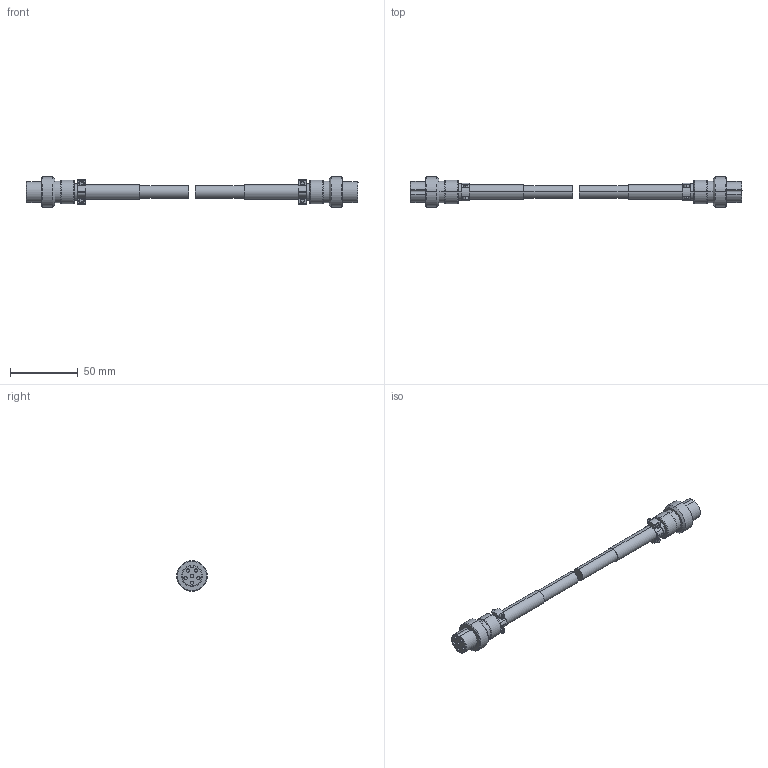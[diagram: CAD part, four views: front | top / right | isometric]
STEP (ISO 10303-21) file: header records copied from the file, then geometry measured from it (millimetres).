
FILE_DESCRIPTION((''),'2;1');
FILE_NAME('MV-LW-015-1-G_ASM','2021-08-27T',('win7'),(''),'PRO/ENGINEER BY PARAMETRIC TECHNOLOGY CORPORATION, 2010100','PRO/ENGINEER BY PARAMETRIC TECHNOLOGY CORPORATION, 2010100','');
FILE_SCHEMA(('CONFIG_CONTROL_DESIGN'));
Length unit declared in the file: millimetre
Products named in the file (2): 19M-6A-1; MV-LW-015-1-G_ASM
Assembly tree (2 placements, depth 2):
  MV-LW-015-1-G_ASM
    19M-6A-1  x2
Bounding box: 245 x 22.5 x 22.5 mm (x, y, z)
Volume: 32572.5 mm3; surface area: 12646 mm2
Topology: 2 solids, 2 shells, 242 faces, 578 edges, 372 vertices
Faces by surface type: plane 128, cylinder 80, cone 34
Entity records: 3593 total; most frequent: DIRECTION 650, CARTESIAN_POINT 606, ORIENTED_EDGE 578, EDGE_CURVE 289, AXIS2_PLACEMENT_3D 238, VERTEX_POINT 186, VECTOR 174, LINE 174
